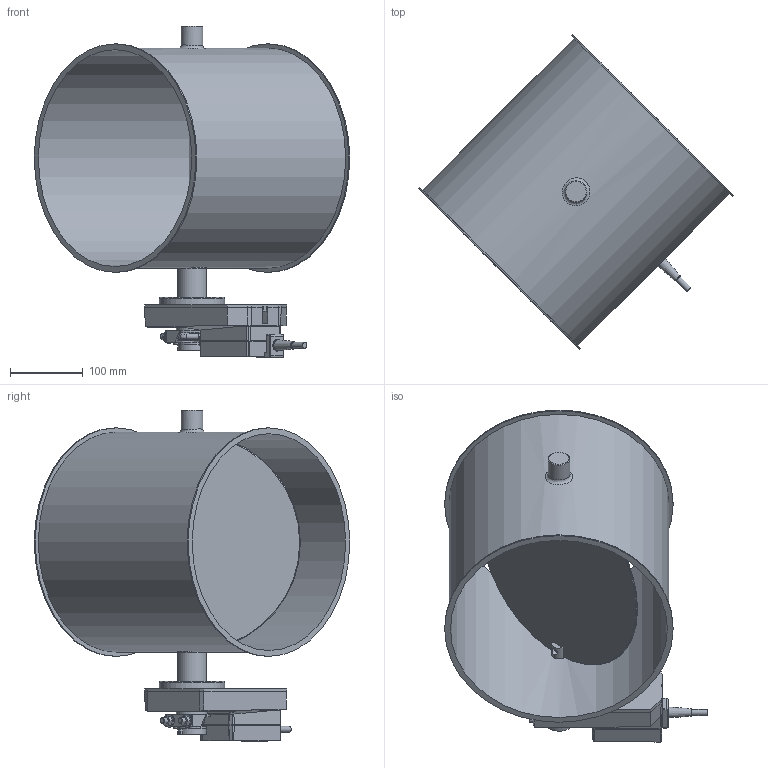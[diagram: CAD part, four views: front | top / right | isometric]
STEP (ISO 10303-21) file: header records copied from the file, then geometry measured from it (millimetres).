
FILE_DESCRIPTION((''),'2;1');
FILE_NAME('U:\Wolfgang\Marcel-3D\fertig\Kapitel 8\3021215.stp','2012-01-13T11:17:12',('iwienholt'),(''),'Autodesk Inventor 2010','Autodesk Inventor 2010','');
FILE_SCHEMA(('AUTOMOTIVE_DESIGN { 1 0 10303 214 1 1 1 1 }'));
Length unit declared in the file: millimetre
Products named in the file (8): 3021215; Bolzen D20; Scheibe300b; 3021211-1; GM24A-Antrieb; Distanzstück D; GM24A-GM_A_standard_MF_MP_1cable; BuchseD20 90-50
Assembly tree (8 placements, depth 3):
  3021215
    Bolzen D20  x2
    Scheibe300b
    3021211-1
    GM24A-Antrieb
      Distanzstück D
      GM24A-GM_A_standard_MF_MP_1cable
      BuchseD20 90-50
Bounding box: 434.87 x 434.87 x 457.4 mm (x, y, z)
Volume: 1799057.7 mm3; surface area: 910029.5 mm2
Topology: 7 solids, 7 shells, 409 faces, 1053 edges, 686 vertices
Faces by surface type: plane 247, cylinder 105, bspline 42, cone 14, torus 1
Full cylindrical faces by diameter (mm): 3.6 x2, 4.2 x4, 5.1 x1, 6 x4, 7.25 x4, 8 x4, 8.4 x1, 9 x4, 9.742 x1, 10 x6, 10.083 x1, 18.2 x2, 20 x4, 20.5 x1, 27.01 x1, 30 x2, 30.042 x1, 34 x1, 34.5 x1, 40 x2, 43 x3, 90 x1, 299 x2, 303 x1, 315 x2
Entity records: 12918 total; most frequent: CARTESIAN_POINT 3080, ORIENTED_EDGE 1870, DIRECTION 1846, EDGE_CURVE 935, VERTEX_POINT 648, AXIS2_PLACEMENT_3D 621, VECTOR 604, LINE 604
